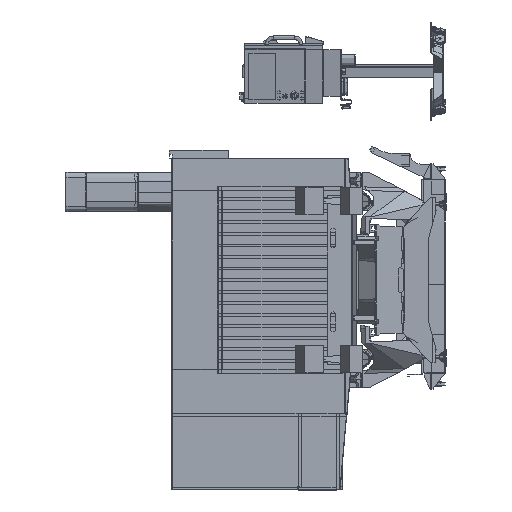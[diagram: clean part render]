
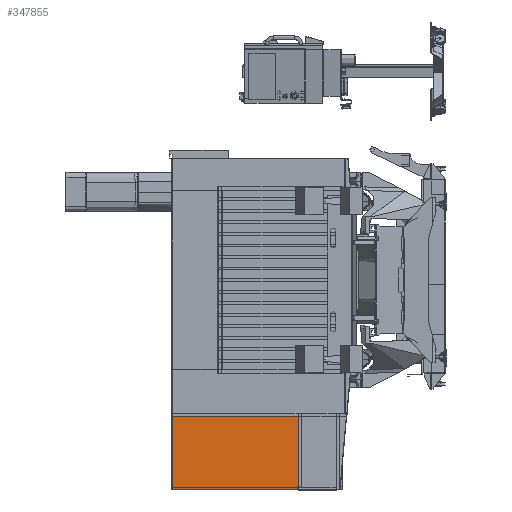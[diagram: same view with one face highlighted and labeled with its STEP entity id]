
A CAD part, left-side view. The second image highlights one B-rep face of the part: STEP entity #347855.
In plain terms, the highlighted planar face has unit normal (-1, 0, 0).
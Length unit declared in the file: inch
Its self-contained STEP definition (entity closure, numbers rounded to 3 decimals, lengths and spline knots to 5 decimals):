
#4229 = CARTESIAN_POINT ( 'NONE',  ( 96.49913, 94.88098, -72.57433 ) ) ;
#13871 = EDGE_CURVE ( 'NONE', #413381, #319736, #412256, .T. ) ;
#14333 = CARTESIAN_POINT ( 'NONE',  ( 96.49913, 94.88098, -46.13133 ) ) ;
#28870 = EDGE_CURVE ( 'NONE', #263438, #90235, #366994, .T. ) ;
#34877 = CARTESIAN_POINT ( 'NONE',  ( 96.49913, 94.79718, -71.57433 ) ) ;
#38077 = LINE ( 'NONE', #107529, #357697 ) ;
#40742 = DIRECTION ( 'NONE',  ( 0., -1., 0. ) ) ;
#41230 = ORIENTED_EDGE ( 'NONE', *, *, #140208, .F. ) ;
#43689 = CARTESIAN_POINT ( 'NONE',  ( 96.49913, 94.79718, -46.13133 ) ) ;
#58807 = VECTOR ( 'NONE', #40742, 39.37008 ) ;
#70677 = CARTESIAN_POINT ( 'NONE',  ( 96.49913, 51.17151, -72.57433 ) ) ;
#76597 = CARTESIAN_POINT ( 'NONE',  ( 96.49913, 51.26035, -71.50423 ) ) ;
#80309 = EDGE_CURVE ( 'NONE', #251168, #376049, #169390, .T. ) ;
#81596 = DIRECTION ( 'NONE',  ( 0., 0., 1. ) ) ;
#90235 = VERTEX_POINT ( 'NONE', #156142 ) ;
#95245 = VECTOR ( 'NONE', #179084, 39.37008 ) ;
#103587 = EDGE_LOOP ( 'NONE', ( #211970, #382728, #132252, #430523, #343980, #104702, #41230, #137226, #114547, #255596 ) ) ;
#104702 = ORIENTED_EDGE ( 'NONE', *, *, #415495, .T. ) ;
#107529 = CARTESIAN_POINT ( 'NONE',  ( 96.49913, 51.22051, -46.13133 ) ) ;
#112208 = EDGE_CURVE ( 'NONE', #90235, #413381, #187603, .T. ) ;
#114547 = ORIENTED_EDGE ( 'NONE', *, *, #80309, .F. ) ;
#127020 = CARTESIAN_POINT ( 'NONE',  ( 96.49913, 94.88098, -71.57433 ) ) ;
#132252 = ORIENTED_EDGE ( 'NONE', *, *, #28870, .T. ) ;
#137226 = ORIENTED_EDGE ( 'NONE', *, *, #240706, .F. ) ;
#140208 = EDGE_CURVE ( 'NONE', #439348, #288362, #385986, .T. ) ;
#145176 = LINE ( 'NONE', #243873, #330539 ) ;
#155491 = CARTESIAN_POINT ( 'NONE',  ( 96.49913, 51.17151, -71.50423 ) ) ;
#156142 = CARTESIAN_POINT ( 'NONE',  ( 96.49913, 94.76728, -71.57433 ) ) ;
#163980 = VECTOR ( 'NONE', #378853, 39.37008 ) ;
#169390 = LINE ( 'NONE', #306192, #246319 ) ;
#174380 = DIRECTION ( 'NONE',  ( 0., 0., -1. ) ) ;
#179084 = DIRECTION ( 'NONE',  ( 0., 0., -1. ) ) ;
#187603 = LINE ( 'NONE', #324372, #325482 ) ;
#188821 = LINE ( 'NONE', #230692, #425291 ) ;
#205226 = DIRECTION ( 'NONE',  ( 0., 1., 0. ) ) ;
#210504 = CARTESIAN_POINT ( 'NONE',  ( 96.49913, 94.79718, -46.13133 ) ) ;
#211970 = ORIENTED_EDGE ( 'NONE', *, *, #371409, .T. ) ;
#226994 = EDGE_CURVE ( 'NONE', #295350, #251168, #145176, .T. ) ;
#230692 = CARTESIAN_POINT ( 'NONE',  ( 96.49913, 51.26035, -71.47433 ) ) ;
#239844 = CARTESIAN_POINT ( 'NONE',  ( 96.49913, 51.17151, -71.50423 ) ) ;
#240706 = EDGE_CURVE ( 'NONE', #376049, #439348, #188821, .T. ) ;
#242973 = VECTOR ( 'NONE', #259430, 39.37008 ) ;
#243873 = CARTESIAN_POINT ( 'NONE',  ( 96.49913, 51.23045, 86.08367 ) ) ;
#246319 = VECTOR ( 'NONE', #205226, 39.37008 ) ;
#251168 = VERTEX_POINT ( 'NONE', #419400 ) ;
#255596 = ORIENTED_EDGE ( 'NONE', *, *, #226994, .F. ) ;
#259430 = DIRECTION ( 'NONE',  ( 0., -1., 0. ) ) ;
#263438 = VERTEX_POINT ( 'NONE', #34877 ) ;
#267887 = VECTOR ( 'NONE', #313523, 39.37008 ) ;
#285999 = EDGE_CURVE ( 'NONE', #319841, #263438, #416753, .T. ) ;
#287544 = DIRECTION ( 'NONE',  ( 0., 0., -1. ) ) ;
#288362 = VERTEX_POINT ( 'NONE', #155491 ) ;
#290718 = DIRECTION ( 'NONE',  ( 0., 0., -1. ) ) ;
#295350 = VERTEX_POINT ( 'NONE', #357014 ) ;
#306192 = CARTESIAN_POINT ( 'NONE',  ( 96.49913, 51.22051, -71.47433 ) ) ;
#313523 = DIRECTION ( 'NONE',  ( 0., -1., 0. ) ) ;
#319736 = VERTEX_POINT ( 'NONE', #70677 ) ;
#319841 = VERTEX_POINT ( 'NONE', #43689 ) ;
#321403 = DIRECTION ( 'NONE',  ( -1., 0., 0. ) ) ;
#323147 = CARTESIAN_POINT ( 'NONE',  ( 96.49913, 94.76728, -72.57433 ) ) ;
#324372 = CARTESIAN_POINT ( 'NONE',  ( 96.49913, 94.76728, -46.13133 ) ) ;
#325482 = VECTOR ( 'NONE', #290718, 39.37008 ) ;
#330539 = VECTOR ( 'NONE', #174380, 39.37008 ) ;
#334578 = AXIS2_PLACEMENT_3D ( 'NONE', #14333, #321403, #81596 ) ;
#343980 = ORIENTED_EDGE ( 'NONE', *, *, #13871, .T. ) ;
#347855 = ADVANCED_FACE ( 'NONE', ( #388769 ), #422334, .T. ) ;
#357014 = CARTESIAN_POINT ( 'NONE',  ( 96.49913, 51.23045, -46.13133 ) ) ;
#357697 = VECTOR ( 'NONE', #387233, 39.37008 ) ;
#366994 = LINE ( 'NONE', #127020, #242973 ) ;
#371409 = EDGE_CURVE ( 'NONE', #295350, #319841, #38077, .T. ) ;
#376049 = VERTEX_POINT ( 'NONE', #383314 ) ;
#378853 = DIRECTION ( 'NONE',  ( 0., 0., 1. ) ) ;
#382728 = ORIENTED_EDGE ( 'NONE', *, *, #285999, .T. ) ;
#383314 = CARTESIAN_POINT ( 'NONE',  ( 96.49913, 51.26035, -71.47433 ) ) ;
#385986 = LINE ( 'NONE', #76597, #58807 ) ;
#387233 = DIRECTION ( 'NONE',  ( 0., 1., 0. ) ) ;
#388769 = FACE_OUTER_BOUND ( 'NONE', #103587, .T. ) ;
#399983 = CARTESIAN_POINT ( 'NONE',  ( 96.49913, 51.26035, -71.50423 ) ) ;
#412256 = LINE ( 'NONE', #4229, #267887 ) ;
#413381 = VERTEX_POINT ( 'NONE', #323147 ) ;
#415495 = EDGE_CURVE ( 'NONE', #319736, #288362, #439503, .T. ) ;
#416753 = LINE ( 'NONE', #210504, #95245 ) ;
#419400 = CARTESIAN_POINT ( 'NONE',  ( 96.49913, 51.23045, -71.47433 ) ) ;
#422334 = PLANE ( 'NONE',  #334578 ) ;
#425291 = VECTOR ( 'NONE', #287544, 39.37008 ) ;
#430523 = ORIENTED_EDGE ( 'NONE', *, *, #112208, .T. ) ;
#439348 = VERTEX_POINT ( 'NONE', #399983 ) ;
#439503 = LINE ( 'NONE', #239844, #163980 ) ;
